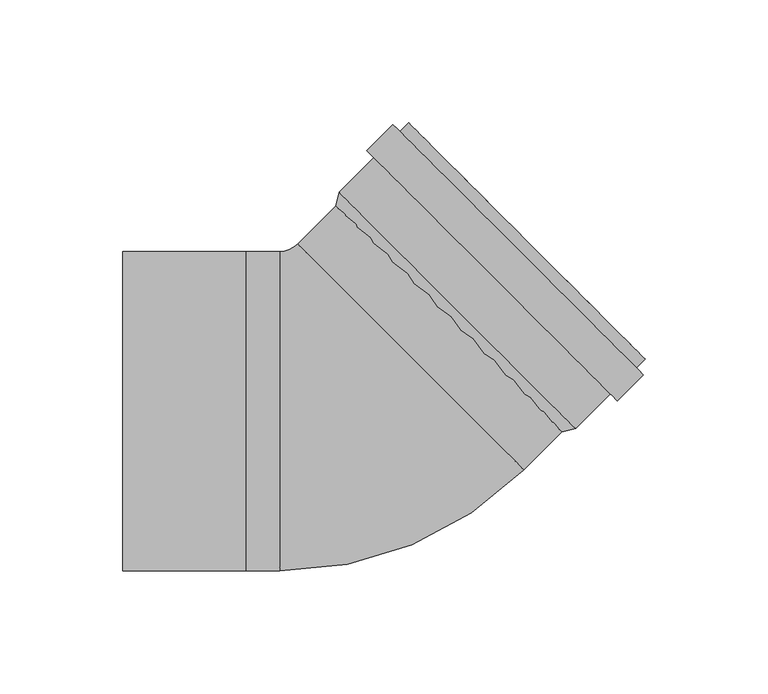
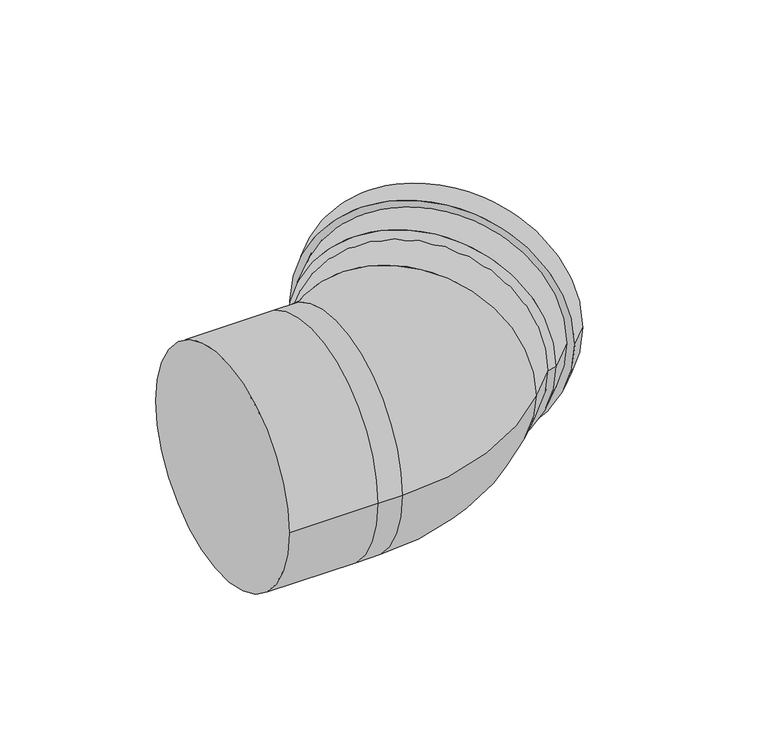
"""IFC4 building model written with IfcOpenShell, lengths in millimetres: duct fitting geometry, RSFen_DUF_UN_Twinline Bend_M&G : ø130 - 150 - 200."""

import ifcopenshell
import ifcopenshell.guid

model = None  # the IFC model being written
_history = None  # IfcOwnerHistory: only IFC2X3 demands one
_inside = {}  # id of a spatial element -> (the spatial element, [elements in it])
_under = {}  # id of a project, library or spatial element -> (it, [spatial elements below it])
_declared = {}  # id of a project -> (the project, [libraries it declares])
_typed = {}  # id of a type object -> (the type object, [elements of that type])
_made_of = {}  # id of a material, layer set ... -> (it, [elements and type objects made of it])


def new_model(schema):
    """Start an empty IFC model of exactly this schema.

    Asked for "IFC4X3", IfcOpenShell would pick the latest addendum, in which some entities
    have other attributes; the version numbers below select the first issue.
    IFC2X3 requires an IfcOwnerHistory on every rooted entity: one is made here for all.
    """
    global model, _history
    if schema == "IFC4X3":
        model = ifcopenshell.file(schema_version=(4, 3, 0, 0))
    else:
        model = ifcopenshell.file(schema=schema)
    _inside.clear()
    _under.clear()
    _declared.clear()
    _typed.clear()
    _made_of.clear()
    _history = None
    if model.schema == "IFC2X3":
        org = make("IfcOrganization", Name="unknown")
        user = make(
            "IfcPersonAndOrganization",
            ThePerson=make("IfcPerson", FamilyName="unknown"),
            TheOrganization=org,
        )
        app = make(
            "IfcApplication",
            ApplicationDeveloper=org,
            Version="unknown",
            ApplicationFullName="unknown",
            ApplicationIdentifier="unknown",
        )
        _history = make(
            "IfcOwnerHistory",
            OwningUser=user,
            OwningApplication=app,
            ChangeAction="ADDED",
            CreationDate=0,
        )
    return model


def make(cls, **values):
    """One entity of the class cls with the attributes given. An attribute that is None is left unset."""
    return model.create_entity(
        cls, **{name: value for name, value in values.items() if value is not None}
    )


def rooted(cls, **values):
    """An entity with a GlobalId (a new one), such as an element, a storey or a relation."""
    return make(cls, GlobalId=ifcopenshell.guid.new(), OwnerHistory=_history, **values)


def si_unit(unit_type, name, prefix=None):
    """IfcSIUnit, for example si_unit("LENGTHUNIT", "METRE", prefix="MILLI")."""
    return make("IfcSIUnit", UnitType=unit_type, Prefix=prefix, Name=name)


def assignment(units):
    """IfcUnitAssignment: the units of a project."""
    return None if units is None else make("IfcUnitAssignment", Units=units)


def point(xyz):
    """IfcCartesianPoint."""
    return None if xyz is None else make("IfcCartesianPoint", Coordinates=xyz)


def direction(xyz):
    """IfcDirection."""
    return None if xyz is None else make("IfcDirection", DirectionRatios=xyz)


def frame(location, z_axis=None, x_axis=None):
    """IfcAxis2Placement3D, a coordinate frame: its origin and axes. An axis left out is left unset."""
    return make(
        "IfcAxis2Placement3D",
        Location=point(location),
        Axis=direction(z_axis),
        RefDirection=direction(x_axis),
    )


def frame_2d(location, x_axis=None):
    """IfcAxis2Placement2D, a coordinate frame in the plane: its origin and x axis."""
    return make(
        "IfcAxis2Placement2D", Location=point(location), RefDirection=direction(x_axis)
    )


def origin():
    """The frame at (0, 0, 0) with its axes left unset."""
    return frame((0.0, 0.0, 0.0))


def origin_2d():
    """The frame at (0, 0) in the plane with its x axis left unset."""
    return frame_2d((0.0, 0.0))


def place(relative_to, where):
    """IfcLocalPlacement: puts the frame where relative to a parent placement (None: the world)."""
    return make(
        "IfcLocalPlacement", PlacementRelTo=relative_to, RelativePlacement=where
    )


def context(
    kind, dimensions, precision=None, world=None, true_north=None, identifier=None
):
    """IfcGeometricRepresentationContext, for example the 3D "Model" context."""
    return make(
        "IfcGeometricRepresentationContext",
        ContextIdentifier=identifier,
        ContextType=kind,
        CoordinateSpaceDimension=dimensions,
        Precision=precision,
        WorldCoordinateSystem=world,
        TrueNorth=true_north,
    )


def project(units=None, contexts=None):
    """IfcProject with its units and contexts."""
    return rooted(
        "IfcProject",
        Name="project",
        RepresentationContexts=contexts,
        UnitsInContext=assignment(units),
    )


def spatial(cls, under=None, at=None, **own):
    """A site, building, storey or space (cls), placed at a placement, below another one or the project."""
    s = rooted(cls, ObjectPlacement=at, **own)
    if under is not None:
        _under.setdefault(under.id(), (under, []))[1].append(s)
    return s


def polyline(points):
    """IfcPolyline through the points."""
    return make("IfcPolyline", Points=[point(p) for p in points])


def circle_curve(where, radius):
    """IfcCircle in the frame where."""
    return make("IfcCircle", Position=where, Radius=radius)


def ellipse_curve(where, semi_axis1, semi_axis2):
    """IfcEllipse in the frame where."""
    return make(
        "IfcEllipse", Position=where, SemiAxis1=semi_axis1, SemiAxis2=semi_axis2
    )


def trimmed(basis, trim1, trim2, sense, master):
    """IfcTrimmedCurve: the piece of a basis curve between two trims."""
    return make(
        "IfcTrimmedCurve",
        BasisCurve=basis,
        Trim1=trim1,
        Trim2=trim2,
        SenseAgreement=sense,
        MasterRepresentation=master,
    )


def segment(curve, same_sense, transition):
    """IfcCompositeCurveSegment."""
    return make(
        "IfcCompositeCurveSegment",
        Transition=transition,
        SameSense=same_sense,
        ParentCurve=curve,
    )


def composite_curve(segments, self_intersect=None):
    """IfcCompositeCurve: segments joined end to end."""
    return make("IfcCompositeCurve", Segments=segments, SelfIntersect=self_intersect)


def outline(outer, holes=None, kind="AREA"):
    """IfcArbitraryClosedProfileDef: a profile drawn as a closed curve; with holes, ...WithVoids."""
    if holes is None:
        return make("IfcArbitraryClosedProfileDef", ProfileType=kind, OuterCurve=outer)
    return make(
        "IfcArbitraryProfileDefWithVoids",
        ProfileType=kind,
        OuterCurve=outer,
        InnerCurves=holes,
    )


def extrude(swept, where, along, depth):
    """IfcExtrudedAreaSolid: the profile swept, set in the frame where, extruded along a direction by depth."""
    return make(
        "IfcExtrudedAreaSolid",
        SweptArea=swept,
        Position=where,
        ExtrudedDirection=direction(along),
        Depth=depth,
    )


def shape(context_of_items, identifier, shape_type, items):
    """IfcShapeRepresentation: the items that make up one representation, for example the "Body"."""
    return make(
        "IfcShapeRepresentation",
        ContextOfItems=context_of_items,
        RepresentationIdentifier=identifier,
        RepresentationType=shape_type,
        Items=items,
    )


def source(mapping_origin, context_of_items, identifier, shape_type, items):
    """IfcRepresentationMap: a shape defined once, which mapped items show again and again."""
    return make(
        "IfcRepresentationMap",
        MappingOrigin=mapping_origin,
        MappedRepresentation=shape(context_of_items, identifier, shape_type, items),
    )


def transform(
    local_origin,
    x_axis=None,
    y_axis=None,
    z_axis=None,
    scale=None,
    scale2=None,
    scale3=None,
    uniform=True,
):
    """IfcCartesianTransformationOperator3D, or its non-uniform kind. x_axis, y_axis, z_axis: its Axis1, 2, 3."""
    if uniform:
        return make(
            "IfcCartesianTransformationOperator3D",
            Axis1=direction(x_axis),
            Axis2=direction(y_axis),
            LocalOrigin=point(local_origin),
            Scale=scale,
            Axis3=direction(z_axis),
        )
    return make(
        "IfcCartesianTransformationOperator3DnonUniform",
        Axis1=direction(x_axis),
        Axis2=direction(y_axis),
        LocalOrigin=point(local_origin),
        Scale=scale,
        Axis3=direction(z_axis),
        Scale2=scale2,
        Scale3=scale3,
    )


def mapped(mapping_source, mapping_target):
    """IfcMappedItem: shows the shape of a source again, moved by a transform."""
    return make(
        "IfcMappedItem", MappingSource=mapping_source, MappingTarget=mapping_target
    )


def made_of(thing, what):
    """Note that an element or type object is made of a material, layer set ...; save() writes the relation."""
    if what is not None:
        _made_of.setdefault(what.id(), (what, []))[1].append(thing)
    return thing


def element(
    cls,
    number,
    at=None,
    inside=None,
    cuts=None,
    type_object=None,
    material=None,
    context=None,
    identifier="Body",
    shape_type=None,
    held_by="IfcProductDefinitionShape",
    body=None,
    shapes=None,
    **own,
):
    """One element of the class cls, such as IfcWall. Its Tag is "e" and its number.

    at: its placement. inside: the storey or other place that contains it. cuts: it is an
    opening in that element (IfcRelVoidsElement). A single representation is given by context,
    identifier, shape_type and body (its items); several are given by shapes. held_by: the class
    of the entity that holds the representations. save() writes the other relations.
    """
    e = rooted(cls, Tag="e%d" % number, ObjectPlacement=at, **own)
    if body is not None:
        shapes = [shape(context, identifier, shape_type, body)]
    if shapes is not None:
        e.Representation = make(held_by, Representations=shapes)
    if inside is not None:
        _inside.setdefault(inside.id(), (inside, []))[1].append(e)
    if cuts is not None:
        rooted(
            "IfcRelVoidsElement", RelatingBuildingElement=cuts, RelatedOpeningElement=e
        )
    if type_object is not None:
        _typed.setdefault(type_object.id(), (type_object, []))[1].append(e)
    return made_of(e, material)


def aggregate(whole, parts):
    """IfcRelAggregates: a whole, such as a stair, and the parts it consists of."""
    return rooted("IfcRelAggregates", RelatingObject=whole, RelatedObjects=parts)


def save(model, path):
    """Write the relations noted so far, then the file.

    IfcRelAggregates (storeys below a building ...), IfcRelContainedInSpatialStructure (elements
    in a storey), IfcRelDefinesByType, IfcRelAssociatesMaterial and IfcRelDeclares: one each for
    every whole, place, type object, material and project.
    """
    for whole, parts in _under.values():
        aggregate(whole, parts)
    for where, things in _inside.values():
        rooted(
            "IfcRelContainedInSpatialStructure",
            RelatedElements=things,
            RelatingStructure=where,
        )
    for kind, things in _typed.values():
        rooted("IfcRelDefinesByType", RelatedObjects=things, RelatingType=kind)
    for what, things in _made_of.values():
        rooted("IfcRelAssociatesMaterial", RelatedObjects=things, RelatingMaterial=what)
    for by, libraries in _declared.values():
        rooted("IfcRelDeclares", RelatingContext=by, RelatedDefinitions=libraries)
    model.write(path)


def plane_surface(at):
    """IfcPlane: the flat surface through the origin of the frame at, square to its z axis."""
    return make("IfcPlane", Position=at)


def cylinder_surface(at, radius):
    """IfcCylindricalSurface: all points at the distance radius from the z axis of the frame at."""
    return make("IfcCylindricalSurface", Position=at, Radius=radius)


def revolved_surface(curve, axis_point, axis_direction):
    """IfcSurfaceOfRevolution: the curve turned about the line through axis_point along axis_direction."""
    return make(
        "IfcSurfaceOfRevolution",
        SweptCurve=make("IfcArbitraryOpenProfileDef", ProfileType="CURVE", Curve=curve),
        AxisPosition=make("IfcAxis1Placement", Location=point(axis_point), Axis=direction(axis_direction)),
    )


def advanced_brep(points, edges, surfaces, faces):
    """IfcAdvancedBrep: a solid bounded by faces that lie on surfaces and meet in shared edges.

    An edge is (start, end): straight between two places in points (the first is 0);
    or (start, end, curve); or (start, end, curve, False) where it runs against its curve.
    A face is (place in surfaces, loops), or (place, loops, False) where it looks against
    its surface's normal. A loop lists edges by number (the first is 1), with a minus sign
    where the edge is run from its end to its start. The first loop is the outer one.
    """
    corners = [point(p) for p in points]
    vertices = [make("IfcVertexPoint", VertexGeometry=c) for c in corners]
    made = []
    for start, end, *more in edges:
        made.append(
            make(
                "IfcEdgeCurve",
                EdgeStart=vertices[start],
                EdgeEnd=vertices[end],
                EdgeGeometry=more[0] if more else make("IfcPolyline", Points=[corners[start], corners[end]]),
                SameSense=more[1] if len(more) > 1 else True,
            )
        )
    hull = []
    for where, loops, *sense in faces:
        bounds = []
        for j, loop in enumerate(loops):
            ring = [make("IfcOrientedEdge", EdgeElement=made[abs(k) - 1], Orientation=k > 0) for k in loop]
            bounds.append(
                make(
                    "IfcFaceOuterBound" if j == 0 else "IfcFaceBound",
                    Bound=make("IfcEdgeLoop", EdgeList=ring),
                    Orientation=True,
                )
            )
        hull.append(make("IfcAdvancedFace", Bounds=bounds, FaceSurface=surfaces[where], SameSense=sense[0] if sense else True))
    return make("IfcAdvancedBrep", Outer=make("IfcClosedShell", CfsFaces=hull))


def duct_fitting_a8be000e(model_context):
    return source(origin(), model_context, "Body", "SolidModel", [
        advanced_brep(
        [(-95.0, 65.0, 0.0), (-95.0, -65.0, 0.0), (-45.0, 65.0, 0.0), (-45.0, -65.0, 0.0), (-31.2317026, -65.0, 0.0), (-31.2317026, 65.0, 0.0), (68.0460895, -23.8777921, 0.0), (-23.8777921, 68.0460895, 0.0), (86.9741341, -4.9497475, 0.0), (41.0121933, 41.0121933, 65.0), (-4.9497475, 86.9741341, 0.0), (41.0121933, 41.0121933, -65.0), (42.4264069, 42.4264069, -65.0), (42.4264069, 42.4264069, 65.0)],
        [
            (0, 1, circle_curve(frame((-95.0, 0.0, 0.0), z_axis=(-1.0, 0.0, 0.0), x_axis=(0.0, -1.0, 0.0)), 65.0)),
            (1, 0, circle_curve(frame((-95.0, 0.0, 0.0), z_axis=(-1.0, 0.0, 0.0), x_axis=(0.0, -1.0, 0.0)), 65.0)),
            (0, 2),
            (2, 3, circle_curve(frame((-45.0, 0.0, 0.0), z_axis=(-1.0, 0.0, 0.0), x_axis=(0.0, -1.0, 0.0)), 65.0)),
            (3, 1),
            (3, 2, circle_curve(frame((-45.0, 0.0, 0.0), z_axis=(-1.0, 0.0, 0.0), x_axis=(0.0, -1.0, 0.0)), 65.0)),
            (3, 4),
            (4, 5, circle_curve(frame((-31.2317026, 0.0, 0.0), z_axis=(-1.0, 0.0, 0.0), x_axis=(0.0, 1.0, 0.0)), 65.0)),
            (5, 2),
            (5, 4, circle_curve(frame((-31.2317026, 0.0, 0.0), z_axis=(-1.0, 0.0, 0.0), x_axis=(0.0, 1.0, 0.0)), 65.0)),
            (4, 6, circle_curve(frame((-31.2317026, 75.4, 0.0), z_axis=(0.0, 0.0, 1.0), x_axis=(0.0, -1.0, 0.0)), 140.4)),
            (6, 7, circle_curve(frame((22.0841487, 22.0841487, 0.0), z_axis=(-0.7071067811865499, -0.7071067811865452, 0.0), x_axis=(-0.7071067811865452, 0.7071067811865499, 0.0)), 65.0)),
            (7, 5, circle_curve(frame((-31.2317026, 75.4, 0.0), z_axis=(0.0, 0.0, -1.0), x_axis=(0.0, -1.0, 0.0)), 10.4)),
            (7, 6, circle_curve(frame((22.0841487, 22.0841487, 0.0), z_axis=(-0.7071067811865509, -0.7071067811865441, 0.0), x_axis=(-0.7071067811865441, 0.7071067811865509, 0.0)), 65.0)),
            (6, 8),
            (8, 9, circle_curve(frame((41.0121933, 41.0121933, 0.0), z_axis=(-0.707106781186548, -0.7071067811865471, 0.0), x_axis=(-0.7071067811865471, 0.707106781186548, 0.0)), 65.0)),
            (9, 10, circle_curve(frame((41.0121933, 41.0121933, 0.0), z_axis=(-0.707106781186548, -0.7071067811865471, 0.0), x_axis=(-0.7071067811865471, 0.707106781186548, 0.0)), 65.0)),
            (10, 7),
            (10, 11, circle_curve(frame((41.0121933, 41.0121933, 0.0), z_axis=(-0.707106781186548, -0.7071067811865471, 0.0), x_axis=(-0.7071067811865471, 0.707106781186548, 0.0)), 65.0)),
            (11, 8, circle_curve(frame((41.0121933, 41.0121933, 0.0), z_axis=(-0.707106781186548, -0.7071067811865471, 0.0), x_axis=(-0.7071067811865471, 0.707106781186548, 0.0)), 65.0)),
            (12, 13, circle_curve(frame((42.4264069, 42.4264069, 0.0), z_axis=(0.707106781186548, 0.7071067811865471, 0.0), x_axis=(0.0, 0.0, 1.0)), 65.0)),
            (13, 12, circle_curve(frame((42.4264069, 42.4264069, 0.0), z_axis=(0.707106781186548, 0.7071067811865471, 0.0), x_axis=(0.0, 0.0, 1.0)), 65.0)),
            (12, 11),
            (9, 13),
        ],
        [
            plane_surface(frame((-95.0, -65.0, 0.0), z_axis=(-1.0, 0.0, 0.0), x_axis=(0.0, 0.0, 1.0))),
            cylinder_surface(frame((-45.0, 0.0, 0.0), z_axis=(-1.0, 0.0, 0.0), x_axis=(0.0, -1.0, 0.0)), 65.0),
            cylinder_surface(frame((-45.0, 0.0, 0.0), z_axis=(-1.0, 0.0, 0.0), x_axis=(0.0, 1.0, 0.0)), 65.0),
            revolved_surface(trimmed(ellipse_curve(frame((-31.2317026, 0.0, 0.0), z_axis=(-1.0, 0.0, 0.0), x_axis=(0.0, 1.0, 0.0)), 65.0, 65.0), [point((-31.2317026, -65.0, 0.0))], [point((-31.2317026, 65.0, 0.0))], True, "CARTESIAN"), (-31.2317026, 75.4, 0.0), (0.0, 0.0, 1.0)),
            revolved_surface(trimmed(ellipse_curve(frame((-31.2317026, 0.0, 0.0), z_axis=(-1.0, 0.0, 0.0), x_axis=(0.0, 1.0, 0.0)), 65.0, 65.0), [point((-31.2317026, 65.0, 0.0))], [point((-31.2317026, -65.0, 0.0))], True, "CARTESIAN"), (-31.2317026, 75.4, 0.0), (0.0, 0.0, 1.0)),
            cylinder_surface(frame((22.0841487, 22.0841487, 0.0), z_axis=(-0.707106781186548, -0.7071067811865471, 0.0), x_axis=(-0.7071067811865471, 0.707106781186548, 0.0)), 65.0),
            plane_surface(frame((42.4264069, 42.4264069, 65.0), z_axis=(0.707106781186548, 0.707106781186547, 0.0), x_axis=(0.707106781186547, -0.707106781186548, 0.0))),
            cylinder_surface(frame((41.0121933, 41.0121933, 0.0), z_axis=(0.707106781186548, 0.7071067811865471, 0.0), x_axis=(0.0, 0.0, 1.0)), 65.0),
        ],
        [
            (0, [[1, 2]]),
            (1, [[-1, 3, 4, 5]]),
            (1, [[-2, -5, 6, -3]]),
            (2, [[7, 8, 9, -6]]),
            (2, [[-7, -4, -9, 10]]),
            (3, [[-8, 11, 12, 13]]),
            (4, [[-10, -13, 14, -11]]),
            (5, [[-12, 15, 16, 17, 18]]),
            (5, [[-14, -18, 19, 20, -15]]),
            (6, [[21, 22]]),
            (7, [[-21, 23, -19, -17, 24]]),
            (7, [[-22, -24, -16, -20, -23]]),
        ],
    ),
        extrude(outline(composite_curve([segment(trimmed(circle_curve(origin_2d(), 72.0), [point((72.0, 0.0))], [point((-72.0, 0.0))], False, "CARTESIAN"), True, "CONTINUOUS"), segment(trimmed(circle_curve(origin_2d(), 72.0), [point((-72.0, 0.0))], [point((72.0, 0.0))], False, "CARTESIAN"), True, "CONTINUOUS")], self_intersect=False), holes=[composite_curve([segment(trimmed(circle_curve(origin_2d(), 68.0), [point((-68.0, 0.0))], [point((68.0, 0.0))], True, "CARTESIAN"), True, "CONTINUOUS"), segment(trimmed(circle_curve(origin_2d(), 68.0), [point((68.0, 0.0))], [point((-68.0, 0.0))], True, "CARTESIAN"), True, "CONTINUOUS")], self_intersect=False)]), frame((55.1543289, 55.1543289, 0.0), z_axis=(0.707106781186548, 0.7071067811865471, 0.0), x_axis=(0.7071067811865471, -0.707106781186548, 0.0)), (0.0, 0.0, 1.0), 15.0),
        advanced_brep(
        [(-7.0710678, 89.0954544, 0.0), (89.0954544, -7.0710678, 0.0), (117.3797257, 21.2132034, 0.0), (21.2132034, 117.3797257, 0.0), (-8.4852814, 83.4386002, 0.0), (83.4386002, -8.4852814, 0.0), (23.3345238, 115.2584053, 0.0), (115.2584053, 23.3345238, 0.0)],
        [
            (0, 1, circle_curve(frame((41.0121933, 41.0121933, 0.0), z_axis=(0.707106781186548, 0.7071067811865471, 0.0), x_axis=(0.7071067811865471, -0.707106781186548, 0.0)), 68.0)),
            (1, 2),
            (2, 3, circle_curve(frame((69.2964646, 69.2964646, 0.0), z_axis=(-0.707106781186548, -0.7071067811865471, 0.0), x_axis=(0.7071067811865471, -0.707106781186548, 0.0)), 68.0)),
            (3, 0),
            (4, 5, circle_curve(frame((37.4766594, 37.4766594, 0.0), z_axis=(0.707106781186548, 0.7071067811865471, 0.0), x_axis=(0.7071067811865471, -0.707106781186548, 0.0)), 65.0)),
            (5, 1),
            (0, 4),
            (6, 7, circle_curve(frame((69.2964646, 69.2964646, 0.0), z_axis=(0.707106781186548, 0.7071067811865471, 0.0), x_axis=(0.7071067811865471, -0.707106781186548, 0.0)), 65.0)),
            (7, 5),
            (4, 6),
            (2, 3, circle_curve(frame((69.2964646, 69.2964646, 0.0), z_axis=(0.707106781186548, 0.7071067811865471, 0.0), x_axis=(-0.7071067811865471, 0.707106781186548, 0.0)), 68.0)),
            (6, 7, circle_curve(frame((69.2964646, 69.2964646, 0.0), z_axis=(-0.707106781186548, -0.7071067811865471, 0.0), x_axis=(-0.7071067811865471, 0.707106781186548, 0.0)), 65.0)),
            (1, 0, circle_curve(frame((41.0121933, 41.0121933, 0.0), z_axis=(0.707106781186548, 0.7071067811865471, 0.0), x_axis=(-0.7071067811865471, 0.707106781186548, 0.0)), 68.0)),
            (5, 4, circle_curve(frame((37.4766594, 37.4766594, 0.0), z_axis=(0.707106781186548, 0.7071067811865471, 0.0), x_axis=(-0.7071067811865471, 0.707106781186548, 0.0)), 65.0)),
        ],
        [
            cylinder_surface(frame((41.0121933, 41.0121933, 0.0), z_axis=(-0.707106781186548, -0.7071067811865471, 0.0), x_axis=(0.7071067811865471, -0.707106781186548, 0.0)), 68.0),
            revolved_surface(polyline([(89.0954544, -7.0710678, 0.0), (83.4386002, -8.4852814, 0.0)]), (41.0121933, 41.0121933, 0.0), (-0.707106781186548, -0.7071067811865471, 0.0)),
            revolved_surface(polyline([(83.43860017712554, -8.485281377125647, 0.0), (115.25840537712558, 23.334523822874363, 0.0)]), (41.0121933, 41.0121933, 0.0), (-0.707106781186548, -0.7071067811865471, 0.0)),
            plane_surface(frame((69.2964646, 69.2964646, 0.0), z_axis=(0.707106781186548, 0.7071067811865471, 0.0), x_axis=(-0.7071067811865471, 0.707106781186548, 0.0))),
            cylinder_surface(frame((41.0121933, 41.0121933, 0.0), z_axis=(-0.707106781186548, -0.7071067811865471, 0.0), x_axis=(-0.7071067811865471, 0.707106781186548, 0.0)), 68.0),
            revolved_surface(polyline([(-7.0710678, 89.0954544, 0.0), (-8.4852814, 83.4386002, 0.0)]), (41.0121933, 41.0121933, 0.0), (-0.707106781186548, -0.7071067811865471, 0.0)),
            revolved_surface(polyline([(-8.485281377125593, 83.4386001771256, 0.0), (23.334523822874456, 115.25840537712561, 0.0)]), (41.0121933, 41.0121933, 0.0), (-0.707106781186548, -0.7071067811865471, 0.0)),
        ],
        [
            (0, [[1, 2, 3, 4]]),
            (1, [[5, 6, -1, 7]]),
            (2, [[8, 9, -5, 10]]),
            (3, [[11, -3], [12, -8]]),
            (4, [[13, -4, -11, -2]]),
            (5, [[14, -7, -13, -6]]),
            (6, [[-12, -10, -14, -9]]),
        ],
    ),
    ])


if __name__ == "__main__":
    model = new_model("IFC4")
    model_context = context("Model", 3, world=origin())
    ifc_project = project(units=[si_unit("LENGTHUNIT", "METRE", prefix="MILLI")], contexts=[model_context])
    site = spatial("IfcSite", under=ifc_project)
    building = spatial("IfcBuilding", under=site)
    placement = place(None, origin())
    duct_fitting_shape = duct_fitting_a8be000e(model_context)
    element("IfcDuctFitting", 1, ObjectType="RSFen_DUF_UN_Twinline Bend_M&G : ø130 - 150 - 200", at=placement, inside=building, context=model_context, shape_type="MappedRepresentation", body=[
        mapped(duct_fitting_shape, transform((0.0, 0.0, 0.0), x_axis=(1.0, 0.0, 0.0), y_axis=(0.0, 1.0, 0.0), z_axis=(0.0, 0.0, 1.0))),
    ])
    save(model, "model.ifc")
